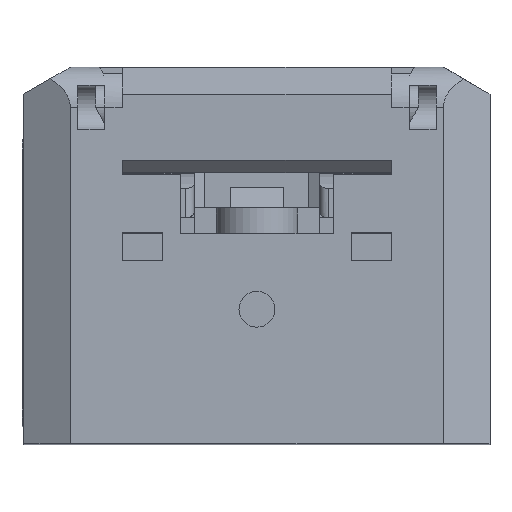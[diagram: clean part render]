
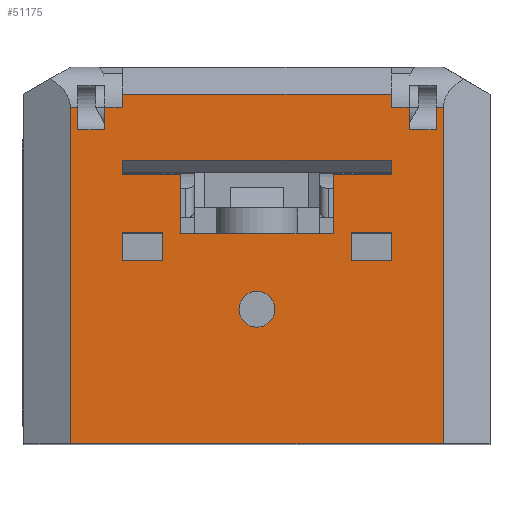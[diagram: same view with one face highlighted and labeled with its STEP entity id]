
A CAD part, top view. The second image highlights one B-rep face of the part: STEP entity #51175.
In plain terms, the highlighted planar face has unit normal (0, 0, 1).
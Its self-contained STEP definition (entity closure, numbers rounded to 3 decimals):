
#5842=DIRECTION('',(1.,0.,0.));
#5843=VECTOR('',#5842,15.);
#5844=CARTESIAN_POINT('',(-7.5,19.5,34.));
#5845=LINE('',#5844,#5843);
#5849=DIRECTION('',(0.,-1.,0.));
#5850=VECTOR('',#5849,1.25);
#5851=CARTESIAN_POINT('',(8.5,18.75,34.));
#5852=LINE('',#5851,#5850);
#5856=DIRECTION('',(-1.,0.,0.));
#5857=VECTOR('',#5856,1.5);
#5858=CARTESIAN_POINT('',(10.,17.5,34.));
#5859=LINE('',#5858,#5857);
#5863=DIRECTION('',(0.,-1.,0.));
#5864=VECTOR('',#5863,1.25);
#5865=CARTESIAN_POINT('',(10.,18.75,34.));
#5866=LINE('',#5865,#5864);
#5870=DIRECTION('',(0.,1.,0.));
#5871=VECTOR('',#5870,18.75);
#5872=CARTESIAN_POINT('',(10.4,0.,34.));
#5873=LINE('',#5872,#5871);
#5877=DIRECTION('',(-1.,0.,0.));
#5878=VECTOR('',#5877,20.8);
#5879=CARTESIAN_POINT('',(10.4,0.,34.));
#5880=LINE('',#5879,#5878);
#5884=DIRECTION('',(0.,1.,0.));
#5885=VECTOR('',#5884,18.75);
#5886=CARTESIAN_POINT('',(-10.4,0.,34.));
#5887=LINE('',#5886,#5885);
#5891=DIRECTION('',(0.,-1.,0.));
#5892=VECTOR('',#5891,1.25);
#5893=CARTESIAN_POINT('',(-10.,18.75,34.));
#5894=LINE('',#5893,#5892);
#5898=DIRECTION('',(-1.,0.,0.));
#5899=VECTOR('',#5898,1.5);
#5900=CARTESIAN_POINT('',(-8.5,17.5,34.));
#5901=LINE('',#5900,#5899);
#5905=DIRECTION('',(0.,-1.,0.));
#5906=VECTOR('',#5905,1.25);
#5907=CARTESIAN_POINT('',(-8.5,18.75,34.));
#5908=LINE('',#5907,#5906);
#5912=DIRECTION('',(0.,-1.,0.));
#5913=VECTOR('',#5912,0.8);
#5914=CARTESIAN_POINT('',(-7.5,15.8,34.));
#5915=LINE('',#5914,#5913);
#5919=DIRECTION('',(-1.,0.,0.));
#5920=VECTOR('',#5919,3.25);
#5921=CARTESIAN_POINT('',(-4.25,15.,34.));
#5922=LINE('',#5921,#5920);
#5926=DIRECTION('',(0.,1.,0.));
#5927=VECTOR('',#5926,3.3);
#5928=CARTESIAN_POINT('',(-4.25,11.7,34.));
#5929=LINE('',#5928,#5927);
#5933=DIRECTION('',(-1.,0.,0.));
#5934=VECTOR('',#5933,8.5);
#5935=CARTESIAN_POINT('',(4.25,11.7,34.));
#5936=LINE('',#5935,#5934);
#5940=DIRECTION('',(0.,-1.,0.));
#5941=VECTOR('',#5940,3.3);
#5942=CARTESIAN_POINT('',(4.25,15.,34.));
#5943=LINE('',#5942,#5941);
#5947=DIRECTION('',(-1.,0.,0.));
#5948=VECTOR('',#5947,3.25);
#5949=CARTESIAN_POINT('',(7.5,15.,34.));
#5950=LINE('',#5949,#5948);
#5954=CARTESIAN_POINT('',(0.,7.5,34.));
#5955=DIRECTION('',(0.,0.,1.));
#5956=DIRECTION('',(0.,-1.,0.));
#5957=AXIS2_PLACEMENT_3D('',#5954,#5955,#5956);
#5962=CARTESIAN_POINT('',(0.,7.5,34.));
#5963=DIRECTION('',(0.,0.,1.));
#5964=DIRECTION('',(0.,1.,0.));
#5965=AXIS2_PLACEMENT_3D('',#5962,#5963,#5964);
#5970=DIRECTION('',(1.,0.,0.));
#5971=VECTOR('',#5970,2.25);
#5972=CARTESIAN_POINT('',(-7.5,10.2,34.));
#5973=LINE('',#5972,#5971);
#5977=DIRECTION('',(0.,1.,0.));
#5978=VECTOR('',#5977,1.6);
#5979=CARTESIAN_POINT('',(-5.25,10.2,34.));
#5980=LINE('',#5979,#5978);
#5984=DIRECTION('',(-1.,0.,0.));
#5985=VECTOR('',#5984,2.25);
#5986=CARTESIAN_POINT('',(-5.25,11.8,34.));
#5987=LINE('',#5986,#5985);
#5991=DIRECTION('',(0.,-1.,0.));
#5992=VECTOR('',#5991,1.6);
#5993=CARTESIAN_POINT('',(-7.5,11.8,34.));
#5994=LINE('',#5993,#5992);
#5998=DIRECTION('',(0.,1.,0.));
#5999=VECTOR('',#5998,1.6);
#6000=CARTESIAN_POINT('',(7.5,10.2,34.));
#6001=LINE('',#6000,#5999);
#6005=DIRECTION('',(-1.,0.,0.));
#6006=VECTOR('',#6005,2.25);
#6007=CARTESIAN_POINT('',(7.5,11.8,34.));
#6008=LINE('',#6007,#6006);
#6012=DIRECTION('',(0.,-1.,0.));
#6013=VECTOR('',#6012,1.6);
#6014=CARTESIAN_POINT('',(5.25,11.8,34.));
#6015=LINE('',#6014,#6013);
#6019=DIRECTION('',(1.,0.,0.));
#6020=VECTOR('',#6019,2.25);
#6021=CARTESIAN_POINT('',(5.25,10.2,34.));
#6022=LINE('',#6021,#6020);
#6034=DIRECTION('',(-1.,0.,0.));
#6035=VECTOR('',#6034,1.);
#6036=CARTESIAN_POINT('',(-7.5,18.75,34.));
#6037=LINE('',#6036,#6035);
#6041=DIRECTION('',(-1.,0.,0.));
#6042=VECTOR('',#6041,0.4);
#6043=CARTESIAN_POINT('',(-10.,18.75,34.));
#6044=LINE('',#6043,#6042);
#6102=DIRECTION('',(0.,-1.,0.));
#6103=VECTOR('',#6102,0.75);
#6104=CARTESIAN_POINT('',(-7.5,19.5,34.));
#6105=LINE('',#6104,#6103);
#7265=DIRECTION('',(-1.,0.,0.));
#7266=VECTOR('',#7265,0.4);
#7267=CARTESIAN_POINT('',(10.4,18.75,34.));
#7268=LINE('',#7267,#7266);
#7272=DIRECTION('',(-1.,0.,0.));
#7273=VECTOR('',#7272,1.);
#7274=CARTESIAN_POINT('',(8.5,18.75,34.));
#7275=LINE('',#7274,#7273);
#7279=DIRECTION('',(0.,1.,0.));
#7280=VECTOR('',#7279,0.75);
#7281=CARTESIAN_POINT('',(7.5,18.75,34.));
#7282=LINE('',#7281,#7280);
#12458=DIRECTION('',(0.,-1.,0.));
#12459=VECTOR('',#12458,0.8);
#12460=CARTESIAN_POINT('',(7.5,15.8,34.));
#12461=LINE('',#12460,#12459);
#26292=DIRECTION('',(1.,0.,0.));
#26293=VECTOR('',#26292,15.);
#26294=CARTESIAN_POINT('',(-7.5,15.8,34.));
#26295=LINE('',#26294,#26293);
#41061=CARTESIAN_POINT('',(7.5,15.,34.));
#41062=CARTESIAN_POINT('',(4.25,15.,34.));
#41063=VERTEX_POINT('',#41061);
#41064=VERTEX_POINT('',#41062);
#41065=CARTESIAN_POINT('',(4.25,11.7,34.));
#41066=VERTEX_POINT('',#41065);
#41067=CARTESIAN_POINT('',(-4.25,11.7,34.));
#41068=VERTEX_POINT('',#41067);
#41069=CARTESIAN_POINT('',(-4.25,15.,34.));
#41070=VERTEX_POINT('',#41069);
#41071=CARTESIAN_POINT('',(-7.5,15.,34.));
#41072=VERTEX_POINT('',#41071);
#41121=CARTESIAN_POINT('',(0.,6.5,34.));
#41122=CARTESIAN_POINT('',(0.,8.5,34.));
#41123=VERTEX_POINT('',#41121);
#41124=VERTEX_POINT('',#41122);
#41201=CARTESIAN_POINT('',(-7.5,10.2,34.));
#41202=CARTESIAN_POINT('',(-5.25,10.2,34.));
#41203=VERTEX_POINT('',#41201);
#41204=VERTEX_POINT('',#41202);
#41205=CARTESIAN_POINT('',(-5.25,11.8,34.));
#41206=VERTEX_POINT('',#41205);
#41207=CARTESIAN_POINT('',(-7.5,11.8,34.));
#41208=VERTEX_POINT('',#41207);
#41209=CARTESIAN_POINT('',(7.5,10.2,34.));
#41210=CARTESIAN_POINT('',(7.5,11.8,34.));
#41211=VERTEX_POINT('',#41209);
#41212=VERTEX_POINT('',#41210);
#41213=CARTESIAN_POINT('',(5.25,11.8,34.));
#41214=VERTEX_POINT('',#41213);
#41215=CARTESIAN_POINT('',(5.25,10.2,34.));
#41216=VERTEX_POINT('',#41215);
#41293=CARTESIAN_POINT('',(10.,18.75,34.));
#41294=CARTESIAN_POINT('',(10.,17.5,34.));
#41295=VERTEX_POINT('',#41293);
#41296=VERTEX_POINT('',#41294);
#41297=CARTESIAN_POINT('',(8.5,17.5,34.));
#41298=VERTEX_POINT('',#41297);
#41299=CARTESIAN_POINT('',(8.5,18.75,34.));
#41300=VERTEX_POINT('',#41299);
#41301=CARTESIAN_POINT('',(-8.5,18.75,34.));
#41302=CARTESIAN_POINT('',(-8.5,17.5,34.));
#41303=VERTEX_POINT('',#41301);
#41304=VERTEX_POINT('',#41302);
#41305=CARTESIAN_POINT('',(-10.,17.5,34.));
#41306=VERTEX_POINT('',#41305);
#41307=CARTESIAN_POINT('',(-10.,18.75,34.));
#41308=VERTEX_POINT('',#41307);
#41557=CARTESIAN_POINT('',(10.4,0.,34.));
#41559=VERTEX_POINT('',#41557);
#41561=CARTESIAN_POINT('',(10.4,18.75,34.));
#41562=VERTEX_POINT('',#41561);
#42012=CARTESIAN_POINT('',(-10.4,0.,34.));
#42014=VERTEX_POINT('',#42012);
#42016=CARTESIAN_POINT('',(-10.4,18.75,34.));
#42017=VERTEX_POINT('',#42016);
#45601=CARTESIAN_POINT('',(-7.5,19.5,34.));
#45602=CARTESIAN_POINT('',(7.5,19.5,34.));
#45603=VERTEX_POINT('',#45601);
#45604=VERTEX_POINT('',#45602);
#45867=CARTESIAN_POINT('',(7.5,15.8,34.));
#45868=VERTEX_POINT('',#45867);
#45879=CARTESIAN_POINT('',(-7.5,15.8,34.));
#45880=VERTEX_POINT('',#45879);
#45883=CARTESIAN_POINT('',(7.5,18.75,34.));
#45884=VERTEX_POINT('',#45883);
#45889=CARTESIAN_POINT('',(-7.5,18.75,34.));
#45890=VERTEX_POINT('',#45889);
#51094=CARTESIAN_POINT('',(13.,0.,34.));
#51095=DIRECTION('',(0.,0.,1.));
#51096=DIRECTION('',(0.,1.,0.));
#51097=AXIS2_PLACEMENT_3D('',#51094,#51095,#51096);
#51098=PLANE('',#51097);
#51100=ORIENTED_EDGE('',*,*,#51099,.F.);
#51102=ORIENTED_EDGE('',*,*,#51101,.F.);
#51104=ORIENTED_EDGE('',*,*,#51103,.T.);
#51106=ORIENTED_EDGE('',*,*,#51105,.F.);
#51108=ORIENTED_EDGE('',*,*,#51107,.F.);
#51110=ORIENTED_EDGE('',*,*,#51109,.T.);
#51112=ORIENTED_EDGE('',*,*,#51111,.F.);
#51114=ORIENTED_EDGE('',*,*,#51113,.F.);
#51116=ORIENTED_EDGE('',*,*,#51115,.F.);
#51118=ORIENTED_EDGE('',*,*,#51117,.F.);
#51120=ORIENTED_EDGE('',*,*,#51119,.T.);
#51122=ORIENTED_EDGE('',*,*,#51121,.T.);
#51124=ORIENTED_EDGE('',*,*,#51123,.F.);
#51126=ORIENTED_EDGE('',*,*,#51125,.T.);
#51128=ORIENTED_EDGE('',*,*,#51127,.F.);
#51130=ORIENTED_EDGE('',*,*,#51129,.F.);
#51131=EDGE_LOOP('',(#51100,#51102,#51104,#51106,#51108,#51110,#51112,#51114,
#51116,#51118,#51120,#51122,#51124,#51126,#51128,#51130));
#51132=FACE_OUTER_BOUND('',#51131,.F.);
#51134=ORIENTED_EDGE('',*,*,#51133,.F.);
#51136=ORIENTED_EDGE('',*,*,#51135,.F.);
#51138=ORIENTED_EDGE('',*,*,#51137,.T.);
#51140=ORIENTED_EDGE('',*,*,#51139,.F.);
#51141=ORIENTED_EDGE('',*,*,#51076,.F.);
#51142=ORIENTED_EDGE('',*,*,#51058,.F.);
#51144=ORIENTED_EDGE('',*,*,#51143,.F.);
#51146=ORIENTED_EDGE('',*,*,#51145,.F.);
#51147=EDGE_LOOP('',(#51134,#51136,#51138,#51140,#51141,#51142,#51144,#51146));
#51148=FACE_BOUND('',#51147,.F.);
#51150=ORIENTED_EDGE('',*,*,#51149,.T.);
#51152=ORIENTED_EDGE('',*,*,#51151,.T.);
#51153=EDGE_LOOP('',(#51150,#51152));
#51154=FACE_BOUND('',#51153,.F.);
#51156=ORIENTED_EDGE('',*,*,#51155,.T.);
#51158=ORIENTED_EDGE('',*,*,#51157,.T.);
#51160=ORIENTED_EDGE('',*,*,#51159,.T.);
#51162=ORIENTED_EDGE('',*,*,#51161,.T.);
#51163=EDGE_LOOP('',(#51156,#51158,#51160,#51162));
#51164=FACE_BOUND('',#51163,.F.);
#51166=ORIENTED_EDGE('',*,*,#51165,.T.);
#51168=ORIENTED_EDGE('',*,*,#51167,.T.);
#51170=ORIENTED_EDGE('',*,*,#51169,.T.);
#51172=ORIENTED_EDGE('',*,*,#51171,.T.);
#51173=EDGE_LOOP('',(#51166,#51168,#51170,#51172));
#51174=FACE_BOUND('',#51173,.F.);
#5958=CIRCLE('',#5957,1.);
#5966=CIRCLE('',#5965,1.);
#51058=EDGE_CURVE('',#41066,#41068,#5936,.T.);
#51076=EDGE_CURVE('',#41068,#41070,#5929,.T.);
#51099=EDGE_CURVE('',#45890,#41303,#6037,.T.);
#51101=EDGE_CURVE('',#45603,#45890,#6105,.T.);
#51103=EDGE_CURVE('',#45603,#45604,#5845,.T.);
#51105=EDGE_CURVE('',#45884,#45604,#7282,.T.);
#51107=EDGE_CURVE('',#41300,#45884,#7275,.T.);
#51109=EDGE_CURVE('',#41300,#41298,#5852,.T.);
#51111=EDGE_CURVE('',#41296,#41298,#5859,.T.);
#51113=EDGE_CURVE('',#41295,#41296,#5866,.T.);
#51115=EDGE_CURVE('',#41562,#41295,#7268,.T.);
#51117=EDGE_CURVE('',#41559,#41562,#5873,.T.);
#51119=EDGE_CURVE('',#41559,#42014,#5880,.T.);
#51121=EDGE_CURVE('',#42014,#42017,#5887,.T.);
#51123=EDGE_CURVE('',#41308,#42017,#6044,.T.);
#51125=EDGE_CURVE('',#41308,#41306,#5894,.T.);
#51127=EDGE_CURVE('',#41304,#41306,#5901,.T.);
#51129=EDGE_CURVE('',#41303,#41304,#5908,.T.);
#51133=EDGE_CURVE('',#45868,#41063,#12461,.T.);
#51135=EDGE_CURVE('',#45880,#45868,#26295,.T.);
#51137=EDGE_CURVE('',#45880,#41072,#5915,.T.);
#51139=EDGE_CURVE('',#41070,#41072,#5922,.T.);
#51143=EDGE_CURVE('',#41064,#41066,#5943,.T.);
#51145=EDGE_CURVE('',#41063,#41064,#5950,.T.);
#51149=EDGE_CURVE('',#41123,#41124,#5958,.T.);
#51151=EDGE_CURVE('',#41124,#41123,#5966,.T.);
#51155=EDGE_CURVE('',#41203,#41204,#5973,.T.);
#51157=EDGE_CURVE('',#41204,#41206,#5980,.T.);
#51159=EDGE_CURVE('',#41206,#41208,#5987,.T.);
#51161=EDGE_CURVE('',#41208,#41203,#5994,.T.);
#51165=EDGE_CURVE('',#41211,#41212,#6001,.T.);
#51167=EDGE_CURVE('',#41212,#41214,#6008,.T.);
#51169=EDGE_CURVE('',#41214,#41216,#6015,.T.);
#51171=EDGE_CURVE('',#41216,#41211,#6022,.T.);
#51175=ADVANCED_FACE('',(#51132,#51148,#51154,#51164,#51174),#51098,.T.);
